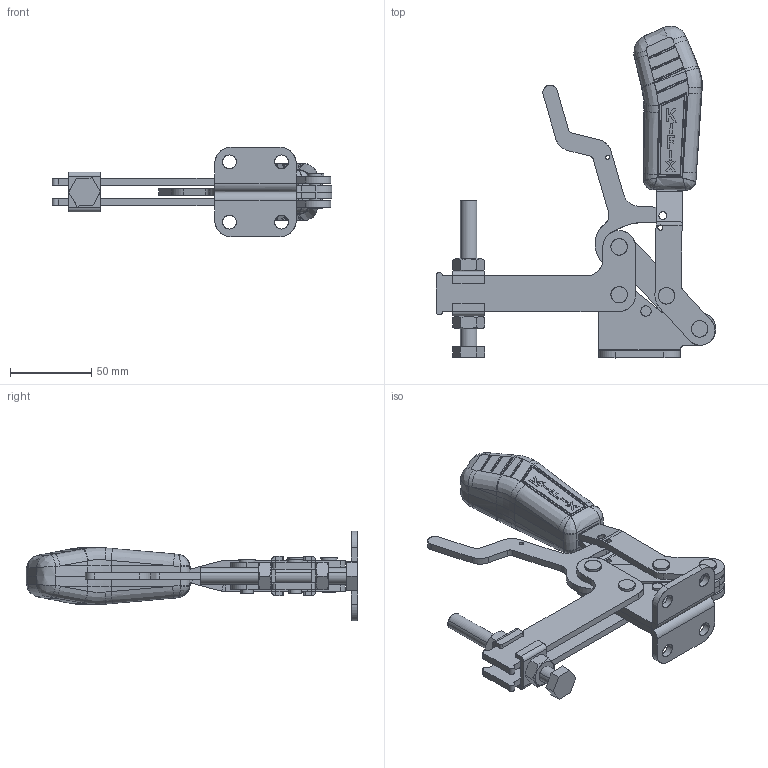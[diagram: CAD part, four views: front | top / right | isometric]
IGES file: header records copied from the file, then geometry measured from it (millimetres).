
Start section: SolidWorks IGES file using analytic representation for surfaces
Global section: file name: G:\Grampos\KF-631\KF-631 DL TR\KF-631 DL TR.IGS; native system: SolidWorks 2018; preprocessor: SolidWorks 2018; author: Ricardo.Sandi; date: 181129.160054; units: millimetre
Bounding box: 172 x 203.93 x 55 mm (x, y, z)
Surface area: 85026.5 mm2 (no closed solid volume)
Topology: 0 solids, 0 shells, 743 faces, 8881 edges, 8859 vertices
Faces by surface type: bspline 447, revolution 296
